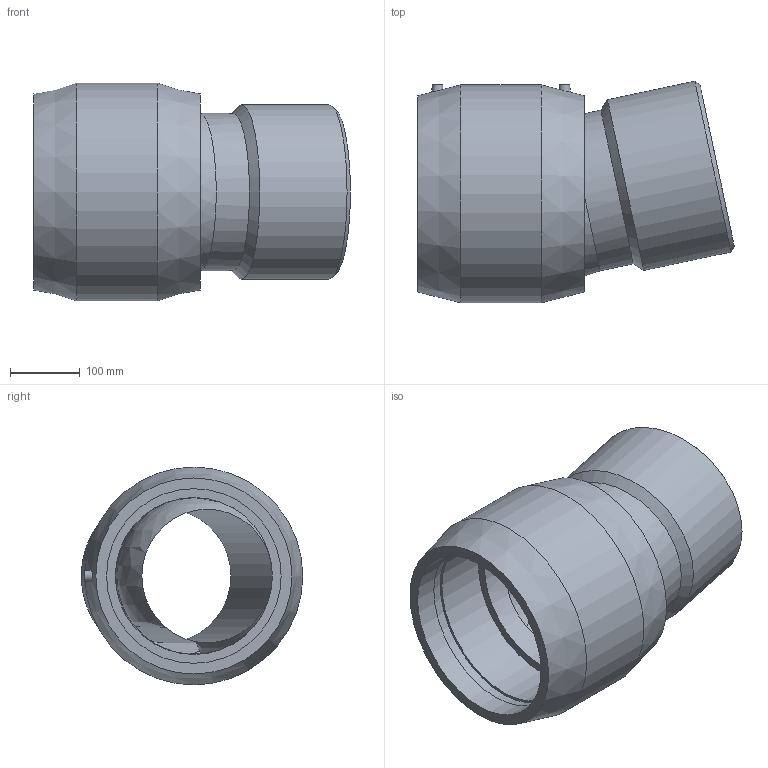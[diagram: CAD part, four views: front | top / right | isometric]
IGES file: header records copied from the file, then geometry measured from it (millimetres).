
Global section: file name: 4947D4250.ipt; native system: Autodesk Inventor 2015; preprocessor: unknown; author: KIM; date: 20171106.094215; units: millimetre
Bounding box: 453.7 x 317.39 x 312 mm (x, y, z)
Volume: 10909699 mm3; surface area: 806030.9 mm2
Topology: 1 solids, 1 shells, 32 faces, 74 edges, 49 vertices
Faces by surface type: plane 11, revolution 7, cone 6, cylinder 6, sphere 2
Full cylindrical faces by diameter (mm): 4 x2, 225 x1, 250 x1, 312 x1
